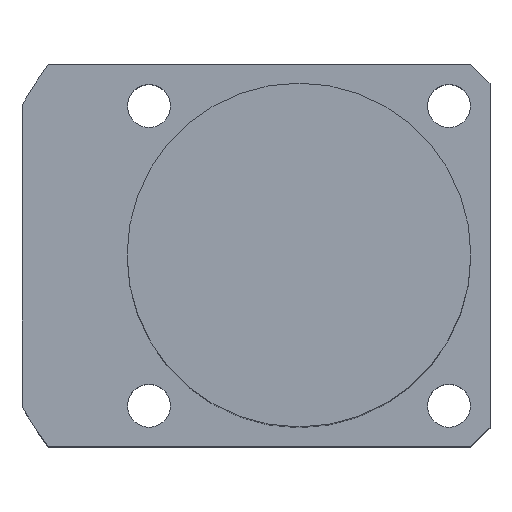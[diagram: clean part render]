
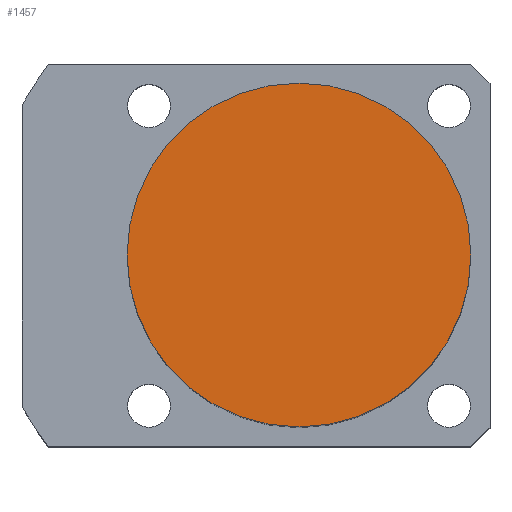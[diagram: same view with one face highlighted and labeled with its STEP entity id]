
A CAD part, top view. The second image highlights one B-rep face of the part: STEP entity #1457.
In plain terms, the highlighted planar face has unit normal (0, 0, 1).
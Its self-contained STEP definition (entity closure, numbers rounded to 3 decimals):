
#1401=CARTESIAN_POINT('',(0.0,-18.0,58.5));
#1402=VERTEX_POINT('',#1401);
#1409=CARTESIAN_POINT('',(-0.0,18.0,58.5));
#1410=VERTEX_POINT('',#1409);
#1411=CARTESIAN_POINT('',(0.0,0.0,58.5));
#1412=DIRECTION('',(0.0,0.0,1.0));
#1413=DIRECTION('',(1.0,0.0,0.0));
#1414=AXIS2_PLACEMENT_3D('',#1411,#1412,#1413);
#1415=CIRCLE('',#1414,18.0);
#1416=EDGE_CURVE('no 1925',#1410,#1402,#1415,.T.);
#1433=CARTESIAN_POINT('',(18.0,0.0,58.5));
#1434=VERTEX_POINT('',#1433);
#1435=CARTESIAN_POINT('',(0.0,0.0,58.5));
#1436=DIRECTION('',(0.0,0.0,1.0));
#1437=DIRECTION('',(1.0,0.0,0.0));
#1438=AXIS2_PLACEMENT_3D('',#1435,#1436,#1437);
#1439=CIRCLE('',#1438,18.0);
#1440=EDGE_CURVE('no 1940',#1434,#1410,#1439,.T.);
#1441=ORIENTED_EDGE('',*,*,#1440,.T.);
#1442=ORIENTED_EDGE('',*,*,#1416,.T.);
#1443=CARTESIAN_POINT('',(0.0,0.0,58.5));
#1444=DIRECTION('',(0.0,0.0,1.0));
#1445=DIRECTION('',(1.0,0.0,0.0));
#1446=AXIS2_PLACEMENT_3D('',#1443,#1444,#1445);
#1447=CIRCLE('',#1446,18.0);
#1448=EDGE_CURVE('no 1946',#1402,#1434,#1447,.T.);
#1449=ORIENTED_EDGE('',*,*,#1448,.T.);
#1450=EDGE_LOOP('',(#1441,#1442,#1449));
#1451=FACE_OUTER_BOUND('',#1450,.T.);
#1452=CARTESIAN_POINT('',(0.0,0.0,58.5));
#1453=DIRECTION('',(0.0,0.0,1.0));
#1454=DIRECTION('',(1.0,0.0,0.0));
#1455=AXIS2_PLACEMENT_3D('',#1452,#1453,#1454);
#1456=PLANE('',#1455);
#1457=ADVANCED_FACE('no 1933',(#1451),#1456,.T.);
